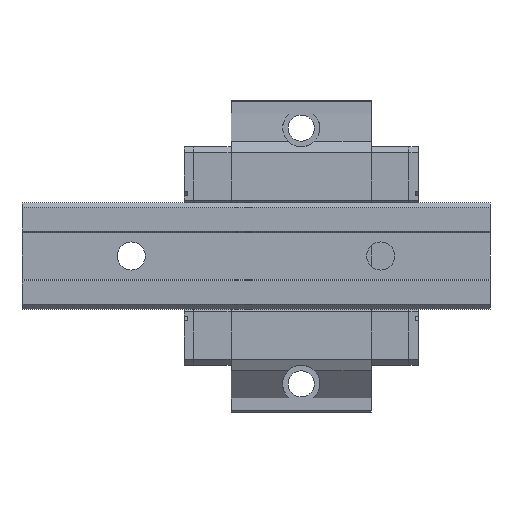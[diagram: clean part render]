
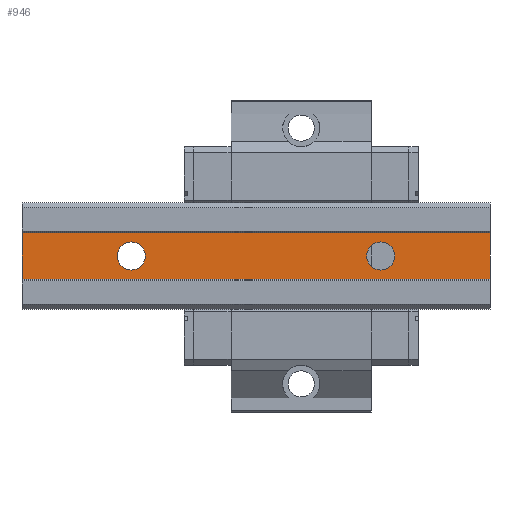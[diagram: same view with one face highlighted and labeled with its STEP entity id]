
A CAD part, front view. The second image highlights one B-rep face of the part: STEP entity #946.
In plain terms, the highlighted planar face has unit normal (0, -1, 0).
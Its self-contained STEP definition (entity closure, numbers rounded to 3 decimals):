
#946 = ADVANCED_FACE( '', ( #2090, #2091, #2092 ), #2093, .F. );
#2090 = FACE_BOUND( '', #3570, .T. );
#2091 = FACE_BOUND( '', #3571, .T. );
#2092 = FACE_OUTER_BOUND( '', #3572, .T. );
#2093 = PLANE( '', #3573 );
#3570 = EDGE_LOOP( '', ( #5847 ) );
#3571 = EDGE_LOOP( '', ( #5848 ) );
#3572 = EDGE_LOOP( '', ( #5849, #5850, #5851, #5852 ) );
#3573 = AXIS2_PLACEMENT_3D( '', #5853, #5854, #5855 );
#5847 = ORIENTED_EDGE( '', *, *, #9502, .F. );
#5848 = ORIENTED_EDGE( '', *, *, #9378, .F. );
#5849 = ORIENTED_EDGE( '', *, *, #9503, .T. );
#5850 = ORIENTED_EDGE( '', *, *, #9273, .F. );
#5851 = ORIENTED_EDGE( '', *, *, #9051, .F. );
#5852 = ORIENTED_EDGE( '', *, *, #9504, .T. );
#5853 = CARTESIAN_POINT( '', ( 75., 0.5, 7.5 ) );
#5854 = DIRECTION( '', ( 0., 1., 0. ) );
#5855 = DIRECTION( '', ( 0., 0., 1. ) );
#9051 = EDGE_CURVE( '', #10932, #10934, #10935, .T. );
#9273 = EDGE_CURVE( '', #10934, #11298, #11302, .T. );
#9378 = EDGE_CURVE( '', #11462, #11462, #11463, .F. );
#9502 = EDGE_CURVE( '', #11664, #11664, #11665, .F. );
#9503 = EDGE_CURVE( '', #11666, #11298, #11667, .T. );
#9504 = EDGE_CURVE( '', #10932, #11666, #11668, .T. );
#10932 = VERTEX_POINT( '', #13676 );
#10934 = VERTEX_POINT( '', #13679 );
#10935 = LINE( '', #13680, #13681 );
#11298 = VERTEX_POINT( '', #14203 );
#11302 = LINE( '', #14209, #14210 );
#11462 = VERTEX_POINT( '', #14442 );
#11463 = CIRCLE( '', #14443, 4.5 );
#11664 = VERTEX_POINT( '', #14735 );
#11665 = CIRCLE( '', #14736, 4.5 );
#11666 = VERTEX_POINT( '', #14737 );
#11667 = LINE( '', #14738, #14739 );
#11668 = LINE( '', #14740, #14741 );
#13676 = CARTESIAN_POINT( '', ( 75., 0.5, 7.5 ) );
#13679 = CARTESIAN_POINT( '', ( 75., 0.5, -7.5 ) );
#13680 = CARTESIAN_POINT( '', ( 75., 0.5, 7.5 ) );
#13681 = VECTOR( '', #16756, 1000. );
#14203 = CARTESIAN_POINT( '', ( -75., 0.5, -7.5 ) );
#14209 = CARTESIAN_POINT( '', ( 75., 0.5, -7.5 ) );
#14210 = VECTOR( '', #16973, 1000. );
#14442 = CARTESIAN_POINT( '', ( -40., 0.5, 4.5 ) );
#14443 = AXIS2_PLACEMENT_3D( '', #17058, #17059, #17060 );
#14735 = CARTESIAN_POINT( '', ( 40., 0.5, 4.5 ) );
#14736 = AXIS2_PLACEMENT_3D( '', #17185, #17186, #17187 );
#14737 = CARTESIAN_POINT( '', ( -75., 0.5, 7.5 ) );
#14738 = CARTESIAN_POINT( '', ( -75., 0.5, 7.5 ) );
#14739 = VECTOR( '', #17188, 1000. );
#14740 = CARTESIAN_POINT( '', ( 75., 0.5, 7.5 ) );
#14741 = VECTOR( '', #17189, 1000. );
#16756 = DIRECTION( '', ( 0., 0., -1. ) );
#16973 = DIRECTION( '', ( -1., 0., 0. ) );
#17058 = CARTESIAN_POINT( '', ( -40., 0.5, 0. ) );
#17059 = DIRECTION( '', ( 0., 1., 0. ) );
#17060 = DIRECTION( '', ( 0., 0., 1. ) );
#17185 = CARTESIAN_POINT( '', ( 40., 0.5, 0. ) );
#17186 = DIRECTION( '', ( 0., 1., 0. ) );
#17187 = DIRECTION( '', ( 0., 0., 1. ) );
#17188 = DIRECTION( '', ( 0., 0., -1. ) );
#17189 = DIRECTION( '', ( -1., 0., 0. ) );
